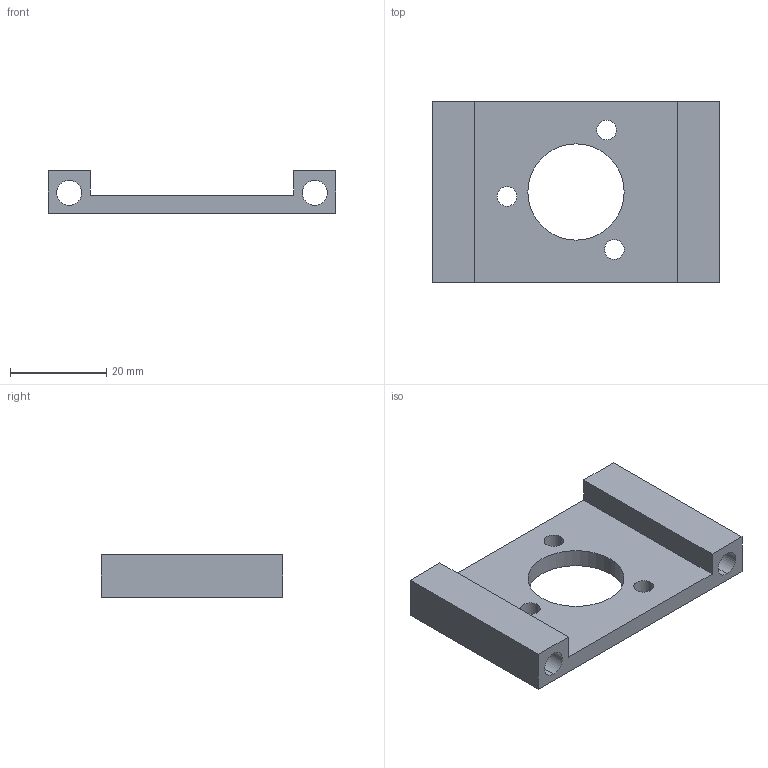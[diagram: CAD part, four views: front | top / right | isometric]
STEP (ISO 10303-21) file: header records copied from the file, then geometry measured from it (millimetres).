
FILE_DESCRIPTION (( 'STEP AP203' ), '1' );
FILE_NAME ('encoders support current.STEP', '2025-10-13T11:02:37', ( '' ), ( '' ), 'SwSTEP 2.0', 'SolidWorks 2023', '' );
FILE_SCHEMA (( 'CONFIG_CONTROL_DESIGN' ));
Length unit declared in the file: millimetre
Products named in the file (1): encoders support current
Bounding box: 59.8 x 37.7 x 8.9 mm (x, y, z)
Volume: 9005.3 mm3; surface area: 7023.4 mm2
Topology: 1 solids, 1 shells, 22 faces, 60 edges, 40 vertices
Faces by surface type: cylinder 12, plane 10
Entity records: 809 total; most frequent: DIRECTION 130, CARTESIAN_POINT 123, ORIENTED_EDGE 120, EDGE_CURVE 60, AXIS2_PLACEMENT_3D 47, VERTEX_POINT 40, VECTOR 36, LINE 36
